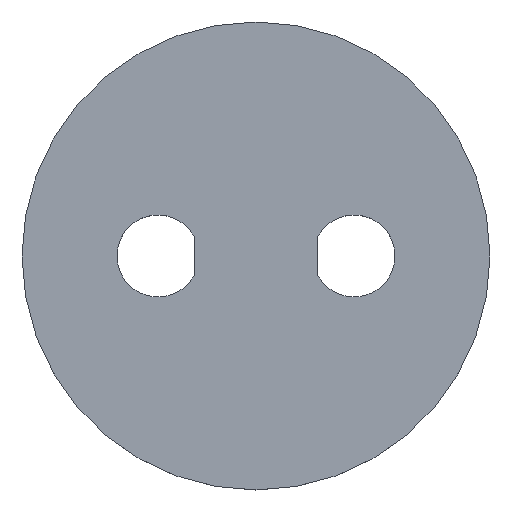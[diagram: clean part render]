
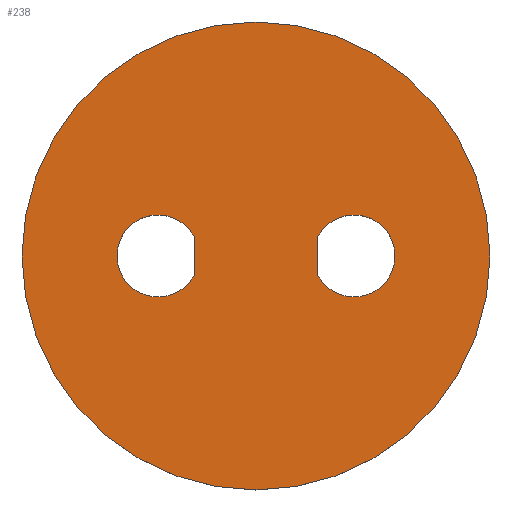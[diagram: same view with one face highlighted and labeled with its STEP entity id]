
A CAD part, top view. The second image highlights one B-rep face of the part: STEP entity #238.
In plain terms, the highlighted planar face has unit normal (0, 0, 1).
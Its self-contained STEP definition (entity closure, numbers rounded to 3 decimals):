
#35 = VERTEX_POINT('',#36);
#36 = CARTESIAN_POINT('',(22.738,0.,1.6));
#43 = CYLINDRICAL_SURFACE('',#44,22.738);
#44 = AXIS2_PLACEMENT_3D('',#45,#46,#47);
#45 = CARTESIAN_POINT('',(0.,-0.,0.));
#46 = DIRECTION('',(-0.,-0.,-1.));
#47 = DIRECTION('',(1.,0.,-0.));
#62 = EDGE_CURVE('',#35,#35,#63,.T.);
#63 = SURFACE_CURVE('',#64,(#69,#76),.PCURVE_S1.);
#64 = CIRCLE('',#65,22.738);
#65 = AXIS2_PLACEMENT_3D('',#66,#67,#68);
#66 = CARTESIAN_POINT('',(0.,0.,1.6));
#67 = DIRECTION('',(0.,0.,1.));
#68 = DIRECTION('',(1.,0.,-0.));
#69 = PCURVE('',#43,#70);
#70 = DEFINITIONAL_REPRESENTATION('',(#71),#75);
#71 = LINE('',#72,#73);
#72 = CARTESIAN_POINT('',(-0.,-1.6));
#73 = VECTOR('',#74,1.);
#74 = DIRECTION('',(-1.,0.));
#75 = ( GEOMETRIC_REPRESENTATION_CONTEXT(2) 
PARAMETRIC_REPRESENTATION_CONTEXT() REPRESENTATION_CONTEXT('2D SPACE',''
  ) );
#76 = PCURVE('',#77,#82);
#77 = PLANE('',#78);
#78 = AXIS2_PLACEMENT_3D('',#79,#80,#81);
#79 = CARTESIAN_POINT('',(0.,0.,1.6));
#80 = DIRECTION('',(0.,0.,1.));
#81 = DIRECTION('',(1.,0.,-0.));
#82 = DEFINITIONAL_REPRESENTATION('',(#83),#87);
#83 = CIRCLE('',#84,22.738);
#84 = AXIS2_PLACEMENT_2D('',#85,#86);
#85 = CARTESIAN_POINT('',(0.,0.));
#86 = DIRECTION('',(1.,0.));
#87 = ( GEOMETRIC_REPRESENTATION_CONTEXT(2) 
PARAMETRIC_REPRESENTATION_CONTEXT() REPRESENTATION_CONTEXT('2D SPACE',''
  ) );
#142 = CYLINDRICAL_SURFACE('',#143,3.984);
#143 = AXIS2_PLACEMENT_3D('',#144,#145,#146);
#144 = CARTESIAN_POINT('',(-9.525,-0.,0.));
#145 = DIRECTION('',(-0.,-0.,-1.));
#146 = DIRECTION('',(1.,0.,-0.));
#168 = PLANE('',#169);
#169 = AXIS2_PLACEMENT_3D('',#170,#171,#172);
#170 = CARTESIAN_POINT('',(-6.023,1.901,0.));
#171 = DIRECTION('',(1.,0.,0.));
#172 = DIRECTION('',(0.,-1.,0.));
#201 = CYLINDRICAL_SURFACE('',#202,3.984);
#202 = AXIS2_PLACEMENT_3D('',#203,#204,#205);
#203 = CARTESIAN_POINT('',(9.521,-0.,0.));
#204 = DIRECTION('',(-0.,-0.,-1.));
#205 = DIRECTION('',(1.,0.,-0.));
#227 = PLANE('',#228);
#228 = AXIS2_PLACEMENT_3D('',#229,#230,#231);
#229 = CARTESIAN_POINT('',(6.02,-1.901,0.));
#230 = DIRECTION('',(-1.,0.,0.));
#231 = DIRECTION('',(0.,1.,0.));
#238 = ADVANCED_FACE('',(#239,#242,#291),#77,.T.);
#239 = FACE_BOUND('',#240,.T.);
#240 = EDGE_LOOP('',(#241));
#241 = ORIENTED_EDGE('',*,*,#62,.T.);
#242 = FACE_BOUND('',#243,.T.);
#243 = EDGE_LOOP('',(#244,#270));
#244 = ORIENTED_EDGE('',*,*,#245,.F.);
#245 = EDGE_CURVE('',#246,#248,#250,.T.);
#246 = VERTEX_POINT('',#247);
#247 = CARTESIAN_POINT('',(-6.023,1.901,1.6));
#248 = VERTEX_POINT('',#249);
#249 = CARTESIAN_POINT('',(-6.023,-1.901,1.6));
#250 = SURFACE_CURVE('',#251,(#256,#263),.PCURVE_S1.);
#251 = CIRCLE('',#252,3.984);
#252 = AXIS2_PLACEMENT_3D('',#253,#254,#255);
#253 = CARTESIAN_POINT('',(-9.525,0.,1.6));
#254 = DIRECTION('',(0.,0.,1.));
#255 = DIRECTION('',(1.,0.,-0.));
#256 = PCURVE('',#77,#257);
#257 = DEFINITIONAL_REPRESENTATION('',(#258),#262);
#258 = CIRCLE('',#259,3.984);
#259 = AXIS2_PLACEMENT_2D('',#260,#261);
#260 = CARTESIAN_POINT('',(-9.525,0.));
#261 = DIRECTION('',(1.,0.));
#262 = ( GEOMETRIC_REPRESENTATION_CONTEXT(2) 
PARAMETRIC_REPRESENTATION_CONTEXT() REPRESENTATION_CONTEXT('2D SPACE',''
  ) );
#263 = PCURVE('',#142,#264);
#264 = DEFINITIONAL_REPRESENTATION('',(#265),#269);
#265 = LINE('',#266,#267);
#266 = CARTESIAN_POINT('',(-0.,-1.6));
#267 = VECTOR('',#268,1.);
#268 = DIRECTION('',(-1.,0.));
#269 = ( GEOMETRIC_REPRESENTATION_CONTEXT(2) 
PARAMETRIC_REPRESENTATION_CONTEXT() REPRESENTATION_CONTEXT('2D SPACE',''
  ) );
#270 = ORIENTED_EDGE('',*,*,#271,.T.);
#271 = EDGE_CURVE('',#246,#248,#272,.T.);
#272 = SURFACE_CURVE('',#273,(#277,#284),.PCURVE_S1.);
#273 = LINE('',#274,#275);
#274 = CARTESIAN_POINT('',(-6.023,1.901,1.6));
#275 = VECTOR('',#276,1.);
#276 = DIRECTION('',(0.,-1.,0.));
#277 = PCURVE('',#77,#278);
#278 = DEFINITIONAL_REPRESENTATION('',(#279),#283);
#279 = LINE('',#280,#281);
#280 = CARTESIAN_POINT('',(-6.023,1.901));
#281 = VECTOR('',#282,1.);
#282 = DIRECTION('',(0.,-1.));
#283 = ( GEOMETRIC_REPRESENTATION_CONTEXT(2) 
PARAMETRIC_REPRESENTATION_CONTEXT() REPRESENTATION_CONTEXT('2D SPACE',''
  ) );
#284 = PCURVE('',#168,#285);
#285 = DEFINITIONAL_REPRESENTATION('',(#286),#290);
#286 = LINE('',#287,#288);
#287 = CARTESIAN_POINT('',(0.,-1.6));
#288 = VECTOR('',#289,1.);
#289 = DIRECTION('',(1.,0.));
#290 = ( GEOMETRIC_REPRESENTATION_CONTEXT(2) 
PARAMETRIC_REPRESENTATION_CONTEXT() REPRESENTATION_CONTEXT('2D SPACE',''
  ) );
#291 = FACE_BOUND('',#292,.T.);
#292 = EDGE_LOOP('',(#293,#319));
#293 = ORIENTED_EDGE('',*,*,#294,.F.);
#294 = EDGE_CURVE('',#295,#297,#299,.T.);
#295 = VERTEX_POINT('',#296);
#296 = CARTESIAN_POINT('',(6.02,-1.901,1.6));
#297 = VERTEX_POINT('',#298);
#298 = CARTESIAN_POINT('',(6.02,1.901,1.6));
#299 = SURFACE_CURVE('',#300,(#305,#312),.PCURVE_S1.);
#300 = CIRCLE('',#301,3.984);
#301 = AXIS2_PLACEMENT_3D('',#302,#303,#304);
#302 = CARTESIAN_POINT('',(9.521,0.,1.6));
#303 = DIRECTION('',(0.,0.,1.));
#304 = DIRECTION('',(1.,0.,-0.));
#305 = PCURVE('',#77,#306);
#306 = DEFINITIONAL_REPRESENTATION('',(#307),#311);
#307 = CIRCLE('',#308,3.984);
#308 = AXIS2_PLACEMENT_2D('',#309,#310);
#309 = CARTESIAN_POINT('',(9.521,0.));
#310 = DIRECTION('',(1.,0.));
#311 = ( GEOMETRIC_REPRESENTATION_CONTEXT(2) 
PARAMETRIC_REPRESENTATION_CONTEXT() REPRESENTATION_CONTEXT('2D SPACE',''
  ) );
#312 = PCURVE('',#201,#313);
#313 = DEFINITIONAL_REPRESENTATION('',(#314),#318);
#314 = LINE('',#315,#316);
#315 = CARTESIAN_POINT('',(-0.,-1.6));
#316 = VECTOR('',#317,1.);
#317 = DIRECTION('',(-1.,0.));
#318 = ( GEOMETRIC_REPRESENTATION_CONTEXT(2) 
PARAMETRIC_REPRESENTATION_CONTEXT() REPRESENTATION_CONTEXT('2D SPACE',''
  ) );
#319 = ORIENTED_EDGE('',*,*,#320,.T.);
#320 = EDGE_CURVE('',#295,#297,#321,.T.);
#321 = SURFACE_CURVE('',#322,(#326,#333),.PCURVE_S1.);
#322 = LINE('',#323,#324);
#323 = CARTESIAN_POINT('',(6.02,-1.901,1.6));
#324 = VECTOR('',#325,1.);
#325 = DIRECTION('',(0.,1.,0.));
#326 = PCURVE('',#77,#327);
#327 = DEFINITIONAL_REPRESENTATION('',(#328),#332);
#328 = LINE('',#329,#330);
#329 = CARTESIAN_POINT('',(6.02,-1.901));
#330 = VECTOR('',#331,1.);
#331 = DIRECTION('',(0.,1.));
#332 = ( GEOMETRIC_REPRESENTATION_CONTEXT(2) 
PARAMETRIC_REPRESENTATION_CONTEXT() REPRESENTATION_CONTEXT('2D SPACE',''
  ) );
#333 = PCURVE('',#227,#334);
#334 = DEFINITIONAL_REPRESENTATION('',(#335),#339);
#335 = LINE('',#336,#337);
#336 = CARTESIAN_POINT('',(0.,-1.6));
#337 = VECTOR('',#338,1.);
#338 = DIRECTION('',(1.,0.));
#339 = ( GEOMETRIC_REPRESENTATION_CONTEXT(2) 
PARAMETRIC_REPRESENTATION_CONTEXT() REPRESENTATION_CONTEXT('2D SPACE',''
  ) );
